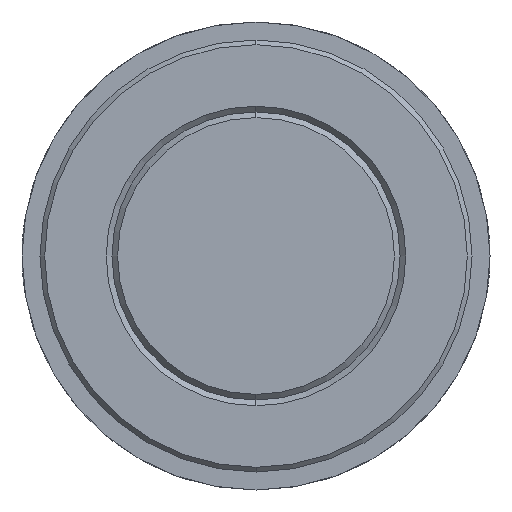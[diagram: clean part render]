
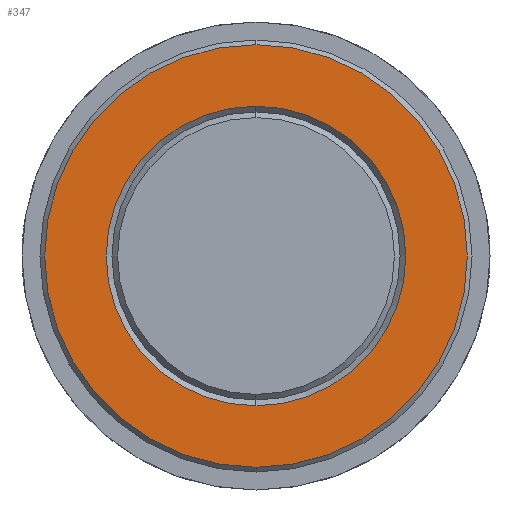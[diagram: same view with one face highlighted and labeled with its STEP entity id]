
A CAD part, left-side view. The second image highlights one B-rep face of the part: STEP entity #347.
In plain terms, the highlighted planar face has unit normal (-1, 0, 0).
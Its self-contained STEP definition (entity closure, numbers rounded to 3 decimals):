
#235=VERTEX_POINT('',#636);
#257=EDGE_CURVE('',#235,#369,#660,.T.);
#321=EDGE_CURVE('',#587,#495,#733,.T.);
#347=ADVANCED_FACE('',(#762,#763),#764,.T.);
#369=VERTEX_POINT('',#789);
#407=EDGE_CURVE('',#495,#587,#828,.T.);
#433=EDGE_CURVE('',#369,#235,#856,.T.);
#495=VERTEX_POINT('',#926);
#587=VERTEX_POINT('',#1026);
#636=CARTESIAN_POINT('',(25.0,0.0,16.64));
#660=CIRCLE('',#1101,16.64);
#733=CIRCLE('',#1214,23.48);
#762=FACE_BOUND('',#1252,.T.);
#763=FACE_OUTER_BOUND('',#1253,.T.);
#764=PLANE('',#1254);
#789=CARTESIAN_POINT('',(25.0,0.,-16.64));
#828=CIRCLE('',#1363,23.48);
#856=CIRCLE('',#1400,16.64);
#926=CARTESIAN_POINT('',(25.0,0.0,23.48));
#1026=CARTESIAN_POINT('',(25.0,0.,-23.48));
#1101=AXIS2_PLACEMENT_3D('',#1775,#1776,#1777);
#1214=AXIS2_PLACEMENT_3D('',#1871,#1872,#1873);
#1252=EDGE_LOOP('',(#1911,#1912));
#1253=EDGE_LOOP('',(#1913,#1914));
#1254=AXIS2_PLACEMENT_3D('',#1915,#1916,#1917);
#1363=AXIS2_PLACEMENT_3D('',#1979,#1980,#1981);
#1400=AXIS2_PLACEMENT_3D('',#2012,#2013,#2014);
#1775=CARTESIAN_POINT('',(25.0,0.0,0.0));
#1776=DIRECTION('',(1.0,0.0,0.));
#1777=DIRECTION('',(0.,0.0,1.0));
#1871=CARTESIAN_POINT('',(25.0,0.0,0.0));
#1872=DIRECTION('',(1.0,0.0,-0.0));
#1873=DIRECTION('',(0.0,0.0,1.0));
#1911=ORIENTED_EDGE('',*,*,#257,.T.);
#1912=ORIENTED_EDGE('',*,*,#433,.T.);
#1913=ORIENTED_EDGE('',*,*,#407,.F.);
#1914=ORIENTED_EDGE('',*,*,#321,.F.);
#1915=CARTESIAN_POINT('',(25.0,0.0,11.74));
#1916=DIRECTION('',(-1.0,-0.0,0.));
#1917=DIRECTION('',(0.,0.0,-1.0));
#1979=CARTESIAN_POINT('',(25.0,0.0,0.0));
#1980=DIRECTION('',(1.0,0.0,-0.0));
#1981=DIRECTION('',(0.0,0.0,1.0));
#2012=CARTESIAN_POINT('',(25.0,0.0,0.0));
#2013=DIRECTION('',(1.0,0.0,0.));
#2014=DIRECTION('',(0.,0.0,1.0));
